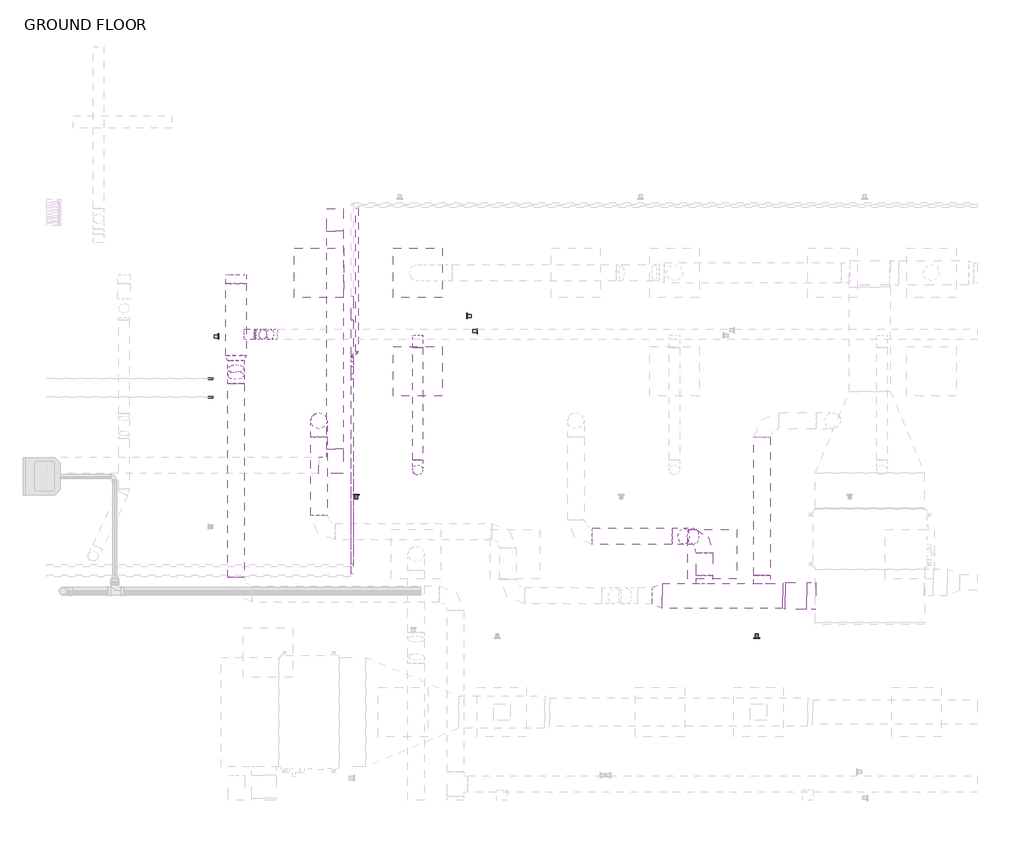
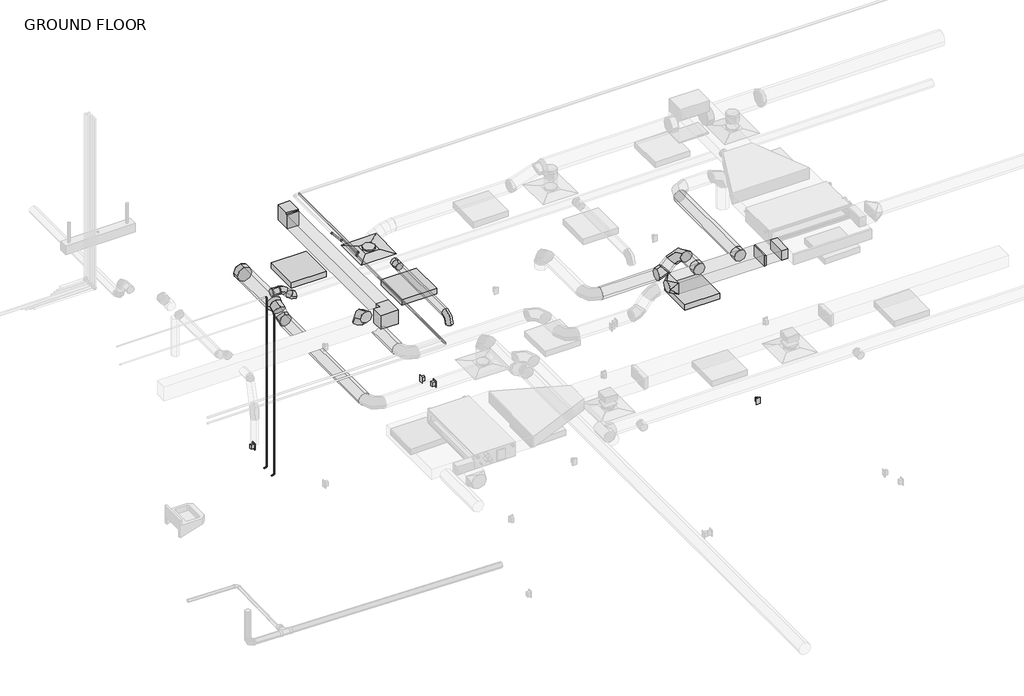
# One storey, part 15 of 21: 19 duct fittings, 16 duct segments, 11 pipe segments, 8 pipe fittings, 3 light fixtures, 3 proxies, 2 switching devices, 1 air terminal.
"""IFC4 building model written with IfcOpenShell, lengths in millimetres."""

from ifc_helpers import new_model, si_unit, point, frame, frame_2d, origin, place, context, project, spatial, polyline, circle_curve, trimmed, segment, composite_curve, outline, extrude, transform, mapped, element, save
from components import air_terminal_e9020785, duplex_receptacle_countertop_10251bba, rectangular_elbow_mitered_transition_standard_eb9bf791, rectangular_elbow_mitered_standard_f09b78ec, rectangular_takeoff_standard_68f80ab3, rectangular_transition_angle_45_degree_0521c937, rectangular_to_round_transition_angle_45_degree_f8b25ec9, round_elbow_1_d_a253342a, round_elbow_1_d_c80420c1, round_elbow_1_d_ab3aa7ba, round_elbow_1_d_20610a6e, round_elbow_1_d_42c0595d, round_takeoff_standard_d3b0d0f9, round_takeoff_standard_17dc06e3, round_takeoff_standard_86724b47, round_takeoff_standard_17f2ae85, round_transition_angle_45_degree_605ec02d, troffer_corner_insert_2x2_3lamp_e67c7f8f, elbow_generic_standard_be2ddd46, elbow_generic_standard_1964ee4a, elbow_generic_standard_a088f956

model = new_model("IFC4")

# Units and contexts
model_context = context("Model", 3, world=origin())
ifc_project = project(units=[si_unit("LENGTHUNIT", "METRE", prefix="MILLI")], contexts=[model_context])

# Site, building, storey
site = spatial("IfcSite", under=ifc_project)
building = spatial("IfcBuilding", under=site)
storey = spatial("IfcBuildingStorey", under=building, Name="GROUND FLOOR", Elevation=30480.0)

# Air terminal
placement = place(None, origin())
air_terminal_shape = air_terminal_e9020785(model_context)
element("IfcAirTerminal", 1, ObjectType="Supply Diffuser - Rectangular Face Round Neck - Hosted : 24\"x24\" Face 8\" Neck - Hosted", at=placement, inside=storey, context=model_context, shape_type="MappedRepresentation", body=[
    mapped(air_terminal_shape, transform((-5009.1954607, 6811.3695005, 33223.2), x_axis=(0.0, -1.0, 0.0), y_axis=(-1.0, 0.0, 0.0), z_axis=(0.0, 0.0, -1.0))),
])

# Proxies
duplex_receptacle_countertop_shape = duplex_receptacle_countertop_10251bba(model_context)
element("IfcBuildingElementProxy", 2, Name="Duplex Receptacle : Standard", ObjectType="Duplex Receptacle : Standard", at=placement, inside=storey, context=model_context, shape_type="MappedRepresentation", body=[
    mapped(duplex_receptacle_countertop_shape, transform((-4399.5954607, 6279.0494659, 30937.2), x_axis=(0.0, -1.0, 0.0), y_axis=(0.0, 0.0, 1.0), z_axis=(-1.0, 0.0, 0.0))),
])
element("IfcBuildingElementProxy", 3, Name="Duplex Receptacle : Standard", ObjectType="Duplex Receptacle : Standard", at=placement, inside=storey, context=model_context, shape_type="MappedRepresentation", body=[
    mapped(duplex_receptacle_countertop_shape, transform((-7469.8204607, 6025.6008767, 30937.2), x_axis=(0.0, 1.0, 0.0), y_axis=(0.0, 0.0, 1.0), z_axis=(1.0, 0.0, 0.0))),
])
element("IfcBuildingElementProxy", 4, Name="Duplex Receptacle : Standard", ObjectType="Duplex Receptacle : Standard", at=placement, inside=storey, context=model_context, shape_type="MappedRepresentation", body=[
    mapped(duplex_receptacle_countertop_shape, transform((-4275.7704607, 6088.963024, 30937.2), x_axis=(0.0, 1.0, 0.0), y_axis=(0.0, 0.0, 1.0), z_axis=(1.0, 0.0, 0.0))),
])

# Duct fittings
rectangular_elbow_mitered_transition_standard_shape = rectangular_elbow_mitered_transition_standard_eb9bf791(model_context)
element("IfcDuctFitting", 5, ObjectType="Rectangular Elbow - Mitered - Transition : Standard", at=placement, inside=storey, context=model_context, shape_type="MappedRepresentation", body=[
    mapped(rectangular_elbow_mitered_transition_standard_shape, transform((-6029.8204015, 4430.1195005, 33807.4), x_axis=(1.0, 0.0, 0.0), y_axis=(0.0, 1.0, 0.0), z_axis=(0.0, 0.0, 1.0))),
])
rectangular_elbow_mitered_standard_shape = rectangular_elbow_mitered_standard_f09b78ec(model_context)
element("IfcDuctFitting", 6, ObjectType="Rectangular Elbow - Mitered : Standard", at=placement, inside=storey, context=model_context, shape_type="MappedRepresentation", body=[
    mapped(rectangular_elbow_mitered_standard_shape, transform((-6029.8204015, 7478.1195005, 33807.4), x_axis=(0.0, 1.0, 0.0), y_axis=(0.0, 0.0, 1.0), z_axis=(1.0, 0.0, 0.0))),
])
rectangular_takeoff_standard_shape = rectangular_takeoff_standard_68f80ab3(model_context)
element("IfcDuctFitting", 7, ObjectType="Rectangular Takeoff : Standard", at=placement, inside=storey, context=model_context, shape_type="MappedRepresentation", body=[
    mapped(rectangular_takeoff_standard_shape, transform((-101.8689282, 2818.301218, 33947.89375), x_axis=(-1.0, 0.0, 0.0), y_axis=(0.0, 1.0, 0.0), z_axis=(0.0, 0.0, -1.0))),
])
rectangular_transition_angle_45_degree_shape = rectangular_transition_angle_45_degree_0521c937(model_context)
element("IfcDuctFitting", 8, ObjectType="Rectangular Transition - Angle : 45 Degree", at=placement, inside=storey, context=model_context, shape_type="MappedRepresentation", body=[
    mapped(rectangular_transition_angle_45_degree_shape, transform((-471.6175144, 2818.301218, 33947.89375), x_axis=(-1.0, 0.0, 0.0), y_axis=(0.0, -1.0, 0.0), z_axis=(0.0, 0.0, 1.0))),
])
rectangular_to_round_transition_angle_45_degree_shape = rectangular_to_round_transition_angle_45_degree_f8b25ec9(model_context)
element("IfcDuctFitting", 9, ObjectType="Rectangular to Round Transition - Angle : 45 Degree", at=placement, inside=storey, context=model_context, shape_type="MappedRepresentation", body=[
    mapped(rectangular_to_round_transition_angle_45_degree_shape, transform((-1989.2675144, 2818.301218, 33947.89375), x_axis=(-1.0, 0.0, 0.0), y_axis=(0.0, -1.0, 0.0), z_axis=(0.0, 0.0, 1.0))),
])
round_elbow_1_d_shape = round_elbow_1_d_a253342a(model_context)
element("IfcDuctFitting", 10, ObjectType="Round Elbow : 1 D", at=placement, inside=storey, context=model_context, shape_type="MappedRepresentation", body=[
    mapped(round_elbow_1_d_shape, transform((-6228.3954607, 4982.5695005, 33629.6), x_axis=(0.0, 0.0, 1.0), y_axis=(0.0, -1.0, 0.0), z_axis=(1.0, 0.0, 0.0))),
])
element("IfcDuctFitting", 11, ObjectType="Round Elbow : 1 D", at=placement, inside=storey, context=model_context, shape_type="MappedRepresentation", body=[
    mapped(round_elbow_1_d_shape, transform((-1465.5538665, 3554.901218, 33947.89375), x_axis=(0.7071067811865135, 0.0, 0.7071067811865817), y_axis=(0.0, -1.0000000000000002, 0.0), z_axis=(0.7071067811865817, 0.0, -0.7071067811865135))),
])
round_elbow_1_d_2_shape = round_elbow_1_d_c80420c1(model_context)
element("IfcDuctFitting", 12, ObjectType="Round Elbow : 1 D", at=placement, inside=storey, context=model_context, shape_type="MappedRepresentation", body=[
    mapped(round_elbow_1_d_2_shape, transform((-5009.1954607, 4372.9695005, 33464.5), x_axis=(0.0, -1.0, 0.0), y_axis=(0.0, 0.0, -1.0), z_axis=(1.0, 0.0, 0.0))),
])
round_elbow_1_d_3_shape = round_elbow_1_d_ab3aa7ba(model_context)
element("IfcDuctFitting", 13, ObjectType="Round Elbow : 1 D", at=placement, inside=storey, context=model_context, shape_type="MappedRepresentation", body=[
    mapped(round_elbow_1_d_3_shape, transform((-1783.8476165, 3554.901218, 33629.6), x_axis=(-0.7071067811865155, 0.0, -0.7071067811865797), y_axis=(-0.7071067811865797, 0.0, 0.7071067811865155), z_axis=(0.0, 1.0, 0.0))),
])
round_elbow_1_d_4_shape = round_elbow_1_d_20610a6e(model_context)
element("IfcDuctFitting", 14, ObjectType="Round Elbow : 1 D", at=placement, inside=storey, context=model_context, shape_type="MappedRepresentation", body=[
    mapped(round_elbow_1_d_4_shape, transform((-7253.9204607, 5672.1243299, 33629.6), x_axis=(0.0, -1.0, 0.0), y_axis=(0.0, 0.0, -1.0), z_axis=(1.0, 0.0, 0.0))),
])
element("IfcDuctFitting", 15, ObjectType="Round Elbow : 1 D", at=placement, inside=storey, context=model_context, shape_type="MappedRepresentation", body=[
    mapped(round_elbow_1_d_4_shape, transform((-7253.9204607, 5496.1479679, 33528.0), x_axis=(0.0, -0.8660254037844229, -0.5000000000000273), y_axis=(0.0, -0.5000000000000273, 0.8660254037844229), z_axis=(-1.0, 0.0, 0.0))),
])
round_elbow_1_d_5_shape = round_elbow_1_d_42c0595d(model_context)
element("IfcDuctFitting", 16, ObjectType="Round Elbow : 1 D", at=placement, inside=storey, context=model_context, shape_type="MappedRepresentation", body=[
    mapped(round_elbow_1_d_5_shape, transform((-6958.932468, 6049.3695005, 33629.6), x_axis=(1.0, 0.0, 0.0), y_axis=(0.0, 0.0, -1.0), z_axis=(0.0, 1.0, 0.0))),
])
element("IfcDuctFitting", 17, ObjectType="Round Elbow : 1 D", at=placement, inside=storey, context=model_context, shape_type="MappedRepresentation", body=[
    mapped(round_elbow_1_d_5_shape, transform((-6793.8326712, 6049.3695005, 33464.5), x_axis=(0.707106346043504, 0.0, -0.7071072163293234), y_axis=(0.7071072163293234, 0.0, 0.707106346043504), z_axis=(0.0, -1.0, 0.0))),
])
round_takeoff_standard_shape = round_takeoff_standard_d3b0d0f9(model_context)
element("IfcDuctFitting", 18, ObjectType="Round Takeoff : Standard", at=placement, inside=storey, context=model_context, shape_type="MappedRepresentation", body=[
    mapped(round_takeoff_standard_shape, transform((-754.6339071, 2970.701218, 33947.89375), x_axis=(0.0, 1.0, 0.0), y_axis=(1.0, 0.0, 0.0), z_axis=(0.0, 0.0, -1.0))),
])
element("IfcDuctFitting", 19, ObjectType="Round Takeoff : Standard", at=placement, inside=storey, context=model_context, shape_type="MappedRepresentation", body=[
    mapped(round_takeoff_standard_shape, transform((-1465.5538665, 2970.701218, 33947.89375), x_axis=(0.0, 1.0, 0.0), y_axis=(1.0, 0.0, 0.0), z_axis=(0.0, 0.0, -1.0))),
])
round_takeoff_standard_2_shape = round_takeoff_standard_17dc06e3(model_context)
element("IfcDuctFitting", 20, ObjectType="Round Takeoff : Standard", at=placement, inside=storey, context=model_context, shape_type="MappedRepresentation", body=[
    mapped(round_takeoff_standard_2_shape, transform((-5009.1954607, 5985.8695005, 33464.5), x_axis=(0.0, -1.0, 0.0), y_axis=(-1.0, 0.0, 0.0), z_axis=(0.0, 0.0, -1.0))),
])
round_takeoff_standard_3_shape = round_takeoff_standard_86724b47(model_context)
element("IfcDuctFitting", 21, ObjectType="Round Takeoff : Standard", at=placement, inside=storey, context=model_context, shape_type="MappedRepresentation", body=[
    mapped(round_takeoff_standard_3_shape, transform((-7253.9204607, 6781.4293332, 33629.6), x_axis=(0.0, -1.0, 0.0), y_axis=(-1.0, 0.0, 0.0), z_axis=(0.0, 0.0, -1.0))),
])
round_takeoff_standard_4_shape = round_takeoff_standard_17f2ae85(model_context)
element("IfcDuctFitting", 22, ObjectType="Round Takeoff : Standard", at=placement, inside=storey, context=model_context, shape_type="MappedRepresentation", body=[
    mapped(round_takeoff_standard_4_shape, transform((-7126.9204607, 6049.3695005, 33629.6), x_axis=(1.0, 0.0, 0.0), y_axis=(0.0, 1.0, 0.0), z_axis=(0.0, 0.0, 1.0))),
])
round_transition_angle_45_degree_shape = round_transition_angle_45_degree_605ec02d(model_context)
element("IfcDuctFitting", 23, ObjectType="Round Transition - Angle : 45 Degree", at=placement, inside=storey, context=model_context, shape_type="MappedRepresentation", body=[
    mapped(round_transition_angle_45_degree_shape, transform((-7253.9204607, 5726.5716058, 33629.6), x_axis=(0.0, 1.0, 0.0), y_axis=(-1.0, 0.0, 0.0), z_axis=(0.0, 0.0, 1.0))),
])

# Duct segments
element("IfcDuctSegment", 24, ObjectType="Mitered Elbows / Taps", at=placement, inside=storey, context=model_context, shape_type="SweptSolid", body=[
    extrude(outline(polyline([(-1989.2675144, 2665.901218), (-1989.2675144, 2970.701218), (-502.2780266, 2970.701218), (-502.2780266, 2665.901218), (-1989.2675144, 2665.901218)])), frame((0.0, 0.0, 33846.29375), z_axis=(0.0, 0.0, 1.0), x_axis=(1.0, 0.0, 0.0)), (0.0, 0.0, 1.0), 203.2),
])
element("IfcDuctSegment", 25, ObjectType="Mitered Elbows / Taps", at=placement, inside=storey, context=model_context, shape_type="SweptSolid", body=[
    extrude(outline(polyline([(-471.6175144, 2653.201218), (-471.6175144, 2983.401218), (-203.4689282, 2983.401218), (-203.4689282, 2653.201218), (-471.6175144, 2653.201218)])), frame((0.0, 0.0, 33858.99375), z_axis=(0.0, 0.0, 1.0), x_axis=(1.0, 0.0, 0.0)), (0.0, 0.0, 1.0), 177.8),
])
element("IfcDuctSegment", 26, ObjectType="Mitered Elbows / Tees", at=placement, inside=storey, context=model_context, shape_type="SweptSolid", body=[
    extrude(outline(polyline([(-6131.4204015, 7325.7195005), (-5928.2204015, 7325.7195005), (-5928.2204015, 4633.3195005), (-6131.4204015, 4633.3195005), (-6131.4204015, 7325.7195005)])), frame((0.0, 0.0, 33680.4), z_axis=(0.0, 0.0, 1.0), x_axis=(1.0, 0.0, 0.0)), (0.0, 0.0, 1.0), 254.0),
])
element("IfcDuctSegment", 27, ObjectType="Taps / Short Radius", at=placement, inside=storey, context=model_context, shape_type="SweptSolid", body=[
    extrude(outline(composite_curve([segment(trimmed(circle_curve(frame_2d((33629.6, -6228.3954607)), 101.6), [point((33629.6, -6329.9954607))], [point((33528.0, -6228.3954607))], False, "CARTESIAN"), True, "CONTINUOUS"), segment(trimmed(circle_curve(frame_2d((33629.6, -6228.3954607)), 101.6), [point((33528.0, -6228.3954607))], [point((33629.6, -6126.7954607))], False, "CARTESIAN"), True, "CONTINUOUS"), segment(trimmed(circle_curve(frame_2d((33629.6, -6228.3954607)), 101.6), [point((33629.6, -6126.7954607))], [point((33731.2, -6228.3954607))], False, "CARTESIAN"), True, "CONTINUOUS"), segment(trimmed(circle_curve(frame_2d((33629.6, -6228.3954607)), 101.6), [point((33731.2, -6228.3954607))], [point((33629.6, -6329.9954607))], False, "CARTESIAN"), True, "CONTINUOUS")], self_intersect=False)), frame((0.0, 3814.1695005, 0.0), z_axis=(0.0, 1.0, 0.0), x_axis=(0.0, 0.0, 1.0)), (0.0, 0.0, 1.0), 965.2),
])
element("IfcDuctSegment", 28, ObjectType="Taps / Short Radius", at=placement, inside=storey, context=model_context, shape_type="SweptSolid", body=[
    extrude(outline(composite_curve([segment(trimmed(circle_curve(frame_2d((-6228.3954607, 4982.5695005)), 101.6), [point((-6228.3954607, 5084.1695005))], [point((-6126.7954607, 4982.5695005))], False, "CARTESIAN"), True, "CONTINUOUS"), segment(trimmed(circle_curve(frame_2d((-6228.3954607, 4982.5695005)), 101.6), [point((-6126.7954607, 4982.5695005))], [point((-6228.3954607, 4880.9695005))], False, "CARTESIAN"), True, "CONTINUOUS"), segment(trimmed(circle_curve(frame_2d((-6228.3954607, 4982.5695005)), 101.6), [point((-6228.3954607, 4880.9695005))], [point((-6329.9954607, 4982.5695005))], False, "CARTESIAN"), True, "CONTINUOUS"), segment(trimmed(circle_curve(frame_2d((-6228.3954607, 4982.5695005)), 101.6), [point((-6329.9954607, 4982.5695005))], [point((-6228.3954607, 5084.1695005))], False, "CARTESIAN"), True, "CONTINUOUS")], self_intersect=False)), frame((0.0, 0.0, 33324.8), z_axis=(0.0, 0.0, 1.0), x_axis=(1.0, 0.0, 0.0)), (0.0, 0.0, 1.0), 101.6),
])
element("IfcDuctSegment", 29, ObjectType="Taps / Short Radius", at=placement, inside=storey, context=model_context, shape_type="SweptSolid", body=[
    extrude(outline(composite_curve([segment(trimmed(circle_curve(frame_2d((33947.89375, -754.6339071)), 101.6), [point((33947.89375, -856.2339071))], [point((33846.29375, -754.6339071))], False, "CARTESIAN"), True, "CONTINUOUS"), segment(trimmed(circle_curve(frame_2d((33947.89375, -754.6339071)), 101.6), [point((33846.29375, -754.6339071))], [point((33947.89375, -653.0339071))], False, "CARTESIAN"), True, "CONTINUOUS"), segment(trimmed(circle_curve(frame_2d((33947.89375, -754.6339071)), 101.6), [point((33947.89375, -653.0339071))], [point((34049.49375, -754.6339071))], False, "CARTESIAN"), True, "CONTINUOUS"), segment(trimmed(circle_curve(frame_2d((33947.89375, -754.6339071)), 101.6), [point((34049.49375, -754.6339071))], [point((33947.89375, -856.2339071))], False, "CARTESIAN"), True, "CONTINUOUS")], self_intersect=False)), frame((0.0, 3072.301218, 0.0), z_axis=(0.0, 1.0, 0.0), x_axis=(0.0, 0.0, 1.0)), (0.0, 0.0, 1.0), 1707.0682826),
])
element("IfcDuctSegment", 30, ObjectType="Taps / Short Radius", at=placement, inside=storey, context=model_context, shape_type="SweptSolid", body=[
    extrude(outline(composite_curve([segment(trimmed(circle_curve(frame_2d((0.0, 63.5)), 63.5), [point((-63.5, 63.5))], [point((0.0, 127.0))], False, "CARTESIAN"), True, "CONTINUOUS"), segment(trimmed(circle_curve(frame_2d((0.0, 63.5)), 63.5), [point((0.0, 127.0))], [point((63.5, 63.5))], False, "CARTESIAN"), True, "CONTINUOUS"), segment(trimmed(circle_curve(frame_2d((0.0, 63.5)), 63.5), [point((63.5, 63.5))], [point((0.0, 0.0))], False, "CARTESIAN"), True, "CONTINUOUS"), segment(trimmed(circle_curve(frame_2d((0.0, 63.5)), 63.5), [point((0.0, 0.0))], [point((-63.5, 63.5))], False, "CARTESIAN"), True, "CONTINUOUS")], self_intersect=False)), frame((-5009.1954607, 4309.4695005, 33324.8), z_axis=(0.0, -1.023181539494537e-12, 1.0), x_axis=(1.0, 0.0, 0.0)), (0.0, 0.0, 1.0), 12.7),
])
element("IfcDuctSegment", 31, ObjectType="Taps / Short Radius", at=placement, inside=storey, context=model_context, shape_type="SweptSolid", body=[
    extrude(outline(composite_curve([segment(trimmed(circle_curve(frame_2d((33464.5, -5009.1954607)), 63.5), [point((33464.5, -5072.6954607))], [point((33401.0, -5009.1954607))], False, "CARTESIAN"), True, "CONTINUOUS"), segment(trimmed(circle_curve(frame_2d((33464.5, -5009.1954607)), 63.5), [point((33401.0, -5009.1954607))], [point((33464.5, -4945.6954607))], False, "CARTESIAN"), True, "CONTINUOUS"), segment(trimmed(circle_curve(frame_2d((33464.5, -5009.1954607)), 63.5), [point((33464.5, -4945.6954607))], [point((33528.0, -5009.1954607))], False, "CARTESIAN"), True, "CONTINUOUS"), segment(trimmed(circle_curve(frame_2d((33464.5, -5009.1954607)), 63.5), [point((33528.0, -5009.1954607))], [point((33464.5, -5072.6954607))], False, "CARTESIAN"), True, "CONTINUOUS")], self_intersect=False)), frame((0.0, 4499.9695005, 0.0), z_axis=(0.0, 1.0, 0.0), x_axis=(0.0, 0.0, 1.0)), (0.0, 0.0, 1.0), 1384.3),
])
element("IfcDuctSegment", 32, ObjectType="Taps / Short Radius", at=placement, inside=storey, context=model_context, shape_type="SweptSolid", body=[
    extrude(outline(composite_curve([segment(trimmed(circle_curve(frame_2d((33528.0, -7253.9204607)), 101.6), [point((33528.0, -7355.5204607))], [point((33426.4, -7253.9204607))], False, "CARTESIAN"), True, "CONTINUOUS"), segment(trimmed(circle_curve(frame_2d((33528.0, -7253.9204607)), 101.6), [point((33426.4, -7253.9204607))], [point((33528.0, -7152.3204607))], False, "CARTESIAN"), True, "CONTINUOUS"), segment(trimmed(circle_curve(frame_2d((33528.0, -7253.9204607)), 101.6), [point((33528.0, -7152.3204607))], [point((33629.6, -7253.9204607))], False, "CARTESIAN"), True, "CONTINUOUS"), segment(trimmed(circle_curve(frame_2d((33528.0, -7253.9204607)), 101.6), [point((33629.6, -7253.9204607))], [point((33528.0, -7355.5204607))], False, "CARTESIAN"), True, "CONTINUOUS")], self_intersect=False)), frame((0.0, 3045.096647, 0.0), z_axis=(0.0, 1.0, 0.0), x_axis=(0.0, 0.0, 1.0)), (0.0, 0.0, 1.0), 2396.604045),
])
element("IfcDuctSegment", 33, ObjectType="Taps / Short Radius", at=placement, inside=storey, context=model_context, shape_type="SweptSolid", body=[
    extrude(outline(composite_curve([segment(trimmed(circle_curve(frame_2d((33629.6, -7253.9204607)), 127.0), [point((33629.6, -7380.9204607))], [point((33502.6, -7253.9204607))], False, "CARTESIAN"), True, "CONTINUOUS"), segment(trimmed(circle_curve(frame_2d((33629.6, -7253.9204607)), 127.0), [point((33502.6, -7253.9204607))], [point((33629.6, -7126.9204607))], False, "CARTESIAN"), True, "CONTINUOUS"), segment(trimmed(circle_curve(frame_2d((33629.6, -7253.9204607)), 127.0), [point((33629.6, -7126.9204607))], [point((33756.6, -7253.9204607))], False, "CARTESIAN"), True, "CONTINUOUS"), segment(trimmed(circle_curve(frame_2d((33629.6, -7253.9204607)), 127.0), [point((33756.6, -7253.9204607))], [point((33629.6, -7380.9204607))], False, "CARTESIAN"), True, "CONTINUOUS")], self_intersect=False)), frame((0.0, 5787.8926303, 0.0), z_axis=(0.0, 1.0, 0.0), x_axis=(0.0, 0.0, 1.0)), (0.0, 0.0, 1.0), 891.9367029),
])
element("IfcDuctSegment", 34, ObjectType="Taps / Short Radius", at=placement, inside=storey, context=model_context, shape_type="SweptSolid", body=[
    extrude(outline(composite_curve([segment(trimmed(circle_curve(frame_2d((0.0, -101.6000001)), 101.6), [point((-101.6, -101.6000001))], [point((0.0, 0.0))], False, "CARTESIAN"), True, "CONTINUOUS"), segment(trimmed(circle_curve(frame_2d((0.0, -101.6000001)), 101.6), [point((0.0, 0.0))], [point((101.6, -101.6000001))], False, "CARTESIAN"), True, "CONTINUOUS"), segment(trimmed(circle_curve(frame_2d((0.0, -101.6000001)), 101.6), [point((101.6, -101.6000001))], [point((0.0, -203.2))], False, "CARTESIAN"), True, "CONTINUOUS"), segment(trimmed(circle_curve(frame_2d((0.0, -101.6000001)), 101.6), [point((0.0, -203.2))], [point((-101.6, -101.6000001))], False, "CARTESIAN"), True, "CONTINUOUS")], self_intersect=False)), frame((-7253.9204607, 5594.100692, 33467.2354569), z_axis=(0.0, 0.8660254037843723, 0.5000000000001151), x_axis=(1.0, 0.0, 0.0)), (0.0, 0.0, 1.0), 94.3054482),
])
element("IfcDuctSegment", 35, ObjectType="Taps / Short Radius", at=placement, inside=storey, context=model_context, shape_type="SweptSolid", body=[
    extrude(outline(composite_curve([segment(trimmed(circle_curve(frame_2d((6049.3695005, 33629.6)), 63.5), [point((5985.8695005, 33629.6))], [point((6049.3695005, 33693.1))], False, "CARTESIAN"), True, "CONTINUOUS"), segment(trimmed(circle_curve(frame_2d((6049.3695005, 33629.6)), 63.5), [point((6049.3695005, 33693.1))], [point((6112.8695005, 33629.6))], False, "CARTESIAN"), True, "CONTINUOUS"), segment(trimmed(circle_curve(frame_2d((6049.3695005, 33629.6)), 63.5), [point((6112.8695005, 33629.6))], [point((6049.3695005, 33566.1))], False, "CARTESIAN"), True, "CONTINUOUS"), segment(trimmed(circle_curve(frame_2d((6049.3695005, 33629.6)), 63.5), [point((6049.3695005, 33566.1))], [point((5985.8695005, 33629.6))], False, "CARTESIAN"), True, "CONTINUOUS")], self_intersect=False)), frame((-7025.3204607, 0.0, 0.0), z_axis=(1.0, 0.0, 0.0), x_axis=(0.0, 1.0, 0.0)), (0.0, 0.0, 1.0), 13.7828245),
])
element("IfcDuctSegment", 36, ObjectType="Taps / Short Radius", at=placement, inside=storey, context=model_context, shape_type="SweptSolid", body=[
    extrude(outline(composite_curve([segment(trimmed(circle_curve(frame_2d((0.0, -63.5)), 63.5), [point((0.0, -127.0))], [point((-63.5, -63.5))], False, "CARTESIAN"), True, "CONTINUOUS"), segment(trimmed(circle_curve(frame_2d((0.0, -63.5)), 63.5), [point((-63.5, -63.5))], [point((0.0, 0.0))], False, "CARTESIAN"), True, "CONTINUOUS"), segment(trimmed(circle_curve(frame_2d((0.0, -63.5)), 63.5), [point((0.0, 0.0))], [point((63.4999999, -63.5))], False, "CARTESIAN"), True, "CONTINUOUS"), segment(trimmed(circle_curve(frame_2d((0.0, -63.5)), 63.5), [point((63.4999999, -63.5))], [point((0.0, -127.0))], False, "CARTESIAN"), True, "CONTINUOUS")], self_intersect=False)), frame((-6831.0301195, 6112.8695005, 33501.6974941), z_axis=(-0.7071063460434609, 0.0, 0.7071072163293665), x_axis=(0.7071072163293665, 0.0, 0.7071063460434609)), (0.0, 0.0, 1.0), 128.2761791),
])
element("IfcDuctSegment", 37, ObjectType="Taps / Short Radius", at=placement, inside=storey, context=model_context, shape_type="SweptSolid", body=[
    extrude(outline(composite_curve([segment(trimmed(circle_curve(frame_2d((33947.89375, -1465.5538665)), 101.6), [point((33947.89375, -1567.1538665))], [point((33846.29375, -1465.5538665))], False, "CARTESIAN"), True, "CONTINUOUS"), segment(trimmed(circle_curve(frame_2d((33947.89375, -1465.5538665)), 101.6), [point((33846.29375, -1465.5538665))], [point((33947.89375, -1363.9538665))], False, "CARTESIAN"), True, "CONTINUOUS"), segment(trimmed(circle_curve(frame_2d((33947.89375, -1465.5538665)), 101.6), [point((33947.89375, -1363.9538665))], [point((34049.49375, -1465.5538665))], False, "CARTESIAN"), True, "CONTINUOUS"), segment(trimmed(circle_curve(frame_2d((33947.89375, -1465.5538665)), 101.6), [point((34049.49375, -1465.5538665))], [point((33947.89375, -1567.1538665))], False, "CARTESIAN"), True, "CONTINUOUS")], self_intersect=False)), frame((0.0, 3072.301218, 0.0), z_axis=(0.0, 1.0, 0.0), x_axis=(0.0, 0.0, 1.0)), (0.0, 0.0, 1.0), 279.4),
])
element("IfcDuctSegment", 38, ObjectType="Taps / Short Radius", at=placement, inside=storey, context=model_context, shape_type="SweptSolid", body=[
    extrude(outline(composite_curve([segment(trimmed(circle_curve(frame_2d((0.0, -101.6)), 101.6), [point((0.0, 0.0))], [point((101.6, -101.6))], False, "CARTESIAN"), True, "CONTINUOUS"), segment(trimmed(circle_curve(frame_2d((0.0, -101.6)), 101.6), [point((101.6, -101.6))], [point((0.0, -203.2))], False, "CARTESIAN"), True, "CONTINUOUS"), segment(trimmed(circle_curve(frame_2d((0.0, -101.6)), 101.6), [point((0.0, -203.2))], [point((-101.6, -101.6))], False, "CARTESIAN"), True, "CONTINUOUS"), segment(trimmed(circle_curve(frame_2d((0.0, -101.6)), 101.6), [point((-101.6, -101.6))], [point((0.0, 0.0))], False, "CARTESIAN"), True, "CONTINUOUS")], self_intersect=False)), frame((-1724.3317144, 3656.501218, 33689.1159021), z_axis=(0.7071067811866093, 0.0, 0.7071067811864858), x_axis=(0.7071067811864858, 0.0, -0.7071067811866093)), (0.0, 0.0, 1.0), 162.7671422),
])
element("IfcDuctSegment", 39, ObjectType="Taps / Short Radius", at=placement, inside=storey, context=model_context, shape_type="SweptSolid", body=[
    extrude(outline(composite_curve([segment(trimmed(circle_curve(frame_2d((3554.901218, 33629.6)), 101.6), [point((3453.301218, 33629.6))], [point((3554.901218, 33731.2))], False, "CARTESIAN"), True, "CONTINUOUS"), segment(trimmed(circle_curve(frame_2d((3554.901218, 33629.6)), 101.6), [point((3554.901218, 33731.2))], [point((3656.501218, 33629.6))], False, "CARTESIAN"), True, "CONTINUOUS"), segment(trimmed(circle_curve(frame_2d((3554.901218, 33629.6)), 101.6), [point((3656.501218, 33629.6))], [point((3554.901218, 33528.0))], False, "CARTESIAN"), True, "CONTINUOUS"), segment(trimmed(circle_curve(frame_2d((3554.901218, 33629.6)), 101.6), [point((3554.901218, 33528.0))], [point((3453.301218, 33629.6))], False, "CARTESIAN"), True, "CONTINUOUS")], self_intersect=False)), frame((-2853.3704607, 0.0, 0.0), z_axis=(1.0, 0.0, 0.0), x_axis=(0.0, 1.0, 0.0)), (0.0, 0.0, 1.0), 985.3546483),
])

# Light fixtures
troffer_corner_insert_2x2_3lamp_shape = troffer_corner_insert_2x2_3lamp_e67c7f8f(model_context)
element("IfcLightFixture", 40, ObjectType="Troffer Corner Insert : 2x2 3Lamp", at=placement, inside=storey, context=model_context, shape_type="MappedRepresentation", body=[
    mapped(troffer_corner_insert_2x2_3lamp_shape, transform((-6228.3954607, 6811.3695005, 30784.8), x_axis=(1.0, 0.0, 0.0), y_axis=(0.0, 1.0, 0.0), z_axis=(0.0, 0.0, 1.0))),
])
element("IfcLightFixture", 41, ObjectType="Troffer Corner Insert : 2x2 3Lamp", at=placement, inside=storey, context=model_context, shape_type="MappedRepresentation", body=[
    mapped(troffer_corner_insert_2x2_3lamp_shape, transform((-5009.1954607, 5592.1695005, 30784.8), x_axis=(1.0, 0.0, 0.0), y_axis=(0.0, 1.0, 0.0), z_axis=(0.0, 0.0, 1.0))),
])
element("IfcLightFixture", 42, ObjectType="Troffer Corner Insert : 2x2 3Lamp", at=placement, inside=storey, context=model_context, shape_type="MappedRepresentation", body=[
    mapped(troffer_corner_insert_2x2_3lamp_shape, transform((-1370.6454607, 3334.7445005, 30784.8), x_axis=(1.0, 0.0, 0.0), y_axis=(0.0, 1.0, 0.0), z_axis=(0.0, 0.0, 1.0))),
])

# Pipe fittings
elbow_generic_standard_shape = elbow_generic_standard_be2ddd46(model_context)
element("IfcPipeFitting", 43, ObjectType="Elbow - Generic : Standard", at=placement, inside=storey, context=model_context, shape_type="MappedRepresentation", body=[
    mapped(elbow_generic_standard_shape, transform((-5818.8204607, 6228.3718518, 34023.3), x_axis=(0.0, 1.0, 0.0), y_axis=(0.0, 0.0, -1.0), z_axis=(-1.0, 0.0, 0.0))),
])
element("IfcPipeFitting", 44, ObjectType="Elbow - Generic : Standard", at=placement, inside=storey, context=model_context, shape_type="MappedRepresentation", body=[
    mapped(elbow_generic_standard_shape, transform((-5818.8204607, 6523.7948224, 33978.2831664), x_axis=(0.0, -1.0, 0.0), y_axis=(0.0, 0.0, 1.0), z_axis=(-1.0, 0.0, 0.0))),
])
elbow_generic_standard_2_shape = elbow_generic_standard_1964ee4a(model_context)
element("IfcPipeFitting", 45, ObjectType="Elbow - Generic : Standard", at=placement, inside=storey, context=model_context, shape_type="MappedRepresentation", body=[
    mapped(elbow_generic_standard_2_shape, transform((-5818.8204607, 5772.7504162, 34023.2999997), x_axis=(-0.7071067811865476, -0.7071067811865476, 0.0), y_axis=(0.7071067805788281, -0.7071067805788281, -4.1459500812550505e-05), z_axis=(2.931629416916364e-05, -2.931629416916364e-05, 0.9999999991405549))),
])
element("IfcPipeFitting", 46, ObjectType="Elbow - Generic : Standard", at=placement, inside=storey, context=model_context, shape_type="MappedRepresentation", body=[
    mapped(elbow_generic_standard_2_shape, transform((-5760.4443281, 5831.1265488, 34023.2999997), x_axis=(0.7071067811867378, 0.7071067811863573, 0.0), y_axis=(-0.7071067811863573, 0.7071067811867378, 0.0), z_axis=(0.0, 0.0, 1.0))),
])
elbow_generic_standard_3_shape = elbow_generic_standard_a088f956(model_context)
element("IfcPipeFitting", 47, ObjectType="Elbow - Generic : Standard", at=placement, inside=storey, context=model_context, shape_type="MappedRepresentation", body=[
    mapped(elbow_generic_standard_3_shape, transform((-7542.8454607, 5503.2695005, 30886.4), x_axis=(1.0, 0.0, 0.0), y_axis=(0.0, 0.0, 1.0), z_axis=(0.0, -1.0, 0.0))),
])
element("IfcPipeFitting", 48, ObjectType="Elbow - Generic : Standard", at=placement, inside=storey, context=model_context, shape_type="MappedRepresentation", body=[
    mapped(elbow_generic_standard_3_shape, transform((-7542.8454607, 5503.2695005, 34023.3), x_axis=(0.0, 0.0, 1.0), y_axis=(-1.0, 0.0, 0.0), z_axis=(0.0, -1.0, 0.0))),
])
element("IfcPipeFitting", 49, ObjectType="Elbow - Generic : Standard", at=placement, inside=storey, context=model_context, shape_type="MappedRepresentation", body=[
    mapped(elbow_generic_standard_3_shape, transform((-7542.8454607, 5274.6695005, 30886.4), x_axis=(1.0, 0.0, 0.0), y_axis=(0.0, 0.0, 1.0), z_axis=(0.0, -1.0, 0.0))),
])
element("IfcPipeFitting", 50, ObjectType="Elbow - Generic : Standard", at=placement, inside=storey, context=model_context, shape_type="MappedRepresentation", body=[
    mapped(elbow_generic_standard_3_shape, transform((-7542.8454607, 5274.6695005, 33855.358114), x_axis=(0.0, 0.0, 1.0), y_axis=(-1.0, 0.0, 0.0), z_axis=(0.0, -1.0, 0.0))),
])

# Pipe segments
element("IfcPipeSegment", 51, ObjectType="Copper", at=placement, inside=storey, context=model_context, shape_type="SweptSolid", body=[
    extrude(outline(composite_curve([segment(trimmed(circle_curve(frame_2d((5503.2695005, 30886.4)), 7.9375), [point((5495.3320005, 30886.4))], [point((5503.2695005, 30894.3375))], False, "CARTESIAN"), True, "CONTINUOUS"), segment(trimmed(circle_curve(frame_2d((5503.2695005, 30886.4)), 7.9375), [point((5503.2695005, 30894.3375))], [point((5511.2070005, 30886.4))], False, "CARTESIAN"), True, "CONTINUOUS"), segment(trimmed(circle_curve(frame_2d((5503.2695005, 30886.4)), 7.9375), [point((5511.2070005, 30886.4))], [point((5503.2695005, 30878.4625))], False, "CARTESIAN"), True, "CONTINUOUS"), segment(trimmed(circle_curve(frame_2d((5503.2695005, 30886.4)), 7.9375), [point((5503.2695005, 30878.4625))], [point((5495.3320005, 30886.4))], False, "CARTESIAN"), True, "CONTINUOUS")], self_intersect=False)), frame((-7593.6454607, 0.0, 0.0), z_axis=(1.0, 0.0, 0.0), x_axis=(0.0, 1.0, 0.0)), (0.0, 0.0, 1.0), 36.5125),
])
element("IfcPipeSegment", 52, ObjectType="Copper", at=placement, inside=storey, context=model_context, shape_type="SweptSolid", body=[
    extrude(outline(composite_curve([segment(trimmed(circle_curve(frame_2d((-7542.8454607, 5503.2695005)), 7.9375), [point((-7550.7829607, 5503.2695005))], [point((-7542.8454607, 5511.2070005))], False, "CARTESIAN"), True, "CONTINUOUS"), segment(trimmed(circle_curve(frame_2d((-7542.8454607, 5503.2695005)), 7.9375), [point((-7542.8454607, 5511.2070005))], [point((-7534.9079607, 5503.2695005))], False, "CARTESIAN"), True, "CONTINUOUS"), segment(trimmed(circle_curve(frame_2d((-7542.8454607, 5503.2695005)), 7.9375), [point((-7534.9079607, 5503.2695005))], [point((-7542.8454607, 5495.3320005))], False, "CARTESIAN"), True, "CONTINUOUS"), segment(trimmed(circle_curve(frame_2d((-7542.8454607, 5503.2695005)), 7.9375), [point((-7542.8454607, 5495.3320005))], [point((-7550.7829607, 5503.2695005))], False, "CARTESIAN"), True, "CONTINUOUS")], self_intersect=False)), frame((0.0, 0.0, 30900.6875), z_axis=(0.0, 0.0, 1.0), x_axis=(1.0, 0.0, 0.0)), (0.0, 0.0, 1.0), 3108.325),
])
element("IfcPipeSegment", 53, ObjectType="Copper", at=placement, inside=storey, context=model_context, shape_type="SweptSolid", body=[
    extrude(outline(composite_curve([segment(trimmed(circle_curve(frame_2d((5274.6695005, 30886.4)), 7.9375), [point((5266.7320005, 30886.4))], [point((5274.6695005, 30894.3375))], False, "CARTESIAN"), True, "CONTINUOUS"), segment(trimmed(circle_curve(frame_2d((5274.6695005, 30886.4)), 7.9375), [point((5274.6695005, 30894.3375))], [point((5282.6070005, 30886.4))], False, "CARTESIAN"), True, "CONTINUOUS"), segment(trimmed(circle_curve(frame_2d((5274.6695005, 30886.4)), 7.9375), [point((5282.6070005, 30886.4))], [point((5274.6695005, 30878.4625))], False, "CARTESIAN"), True, "CONTINUOUS"), segment(trimmed(circle_curve(frame_2d((5274.6695005, 30886.4)), 7.9375), [point((5274.6695005, 30878.4625))], [point((5266.7320005, 30886.4))], False, "CARTESIAN"), True, "CONTINUOUS")], self_intersect=False)), frame((-7593.6454607, 0.0, 0.0), z_axis=(1.0, 0.0, 0.0), x_axis=(0.0, 1.0, 0.0)), (0.0, 0.0, 1.0), 36.5125),
])
element("IfcPipeSegment", 54, ObjectType="Copper", at=placement, inside=storey, context=model_context, shape_type="SweptSolid", body=[
    extrude(outline(composite_curve([segment(trimmed(circle_curve(frame_2d((-7542.8454607, 5274.6695005)), 7.9375), [point((-7550.7829607, 5274.6695005))], [point((-7542.8454607, 5282.6070005))], False, "CARTESIAN"), True, "CONTINUOUS"), segment(trimmed(circle_curve(frame_2d((-7542.8454607, 5274.6695005)), 7.9375), [point((-7542.8454607, 5282.6070005))], [point((-7534.9079607, 5274.6695005))], False, "CARTESIAN"), True, "CONTINUOUS"), segment(trimmed(circle_curve(frame_2d((-7542.8454607, 5274.6695005)), 7.9375), [point((-7534.9079607, 5274.6695005))], [point((-7542.8454607, 5266.7320005))], False, "CARTESIAN"), True, "CONTINUOUS"), segment(trimmed(circle_curve(frame_2d((-7542.8454607, 5274.6695005)), 7.9375), [point((-7542.8454607, 5266.7320005))], [point((-7550.7829607, 5274.6695005))], False, "CARTESIAN"), True, "CONTINUOUS")], self_intersect=False)), frame((0.0, 0.0, 30900.6875), z_axis=(0.0, 0.0, 1.0), x_axis=(1.0, 0.0, 0.0)), (0.0, 0.0, 1.0), 2940.383114),
])
element("IfcPipeSegment", 55, ObjectType="Copper", at=placement, inside=storey, context=model_context, shape_type="SweptSolid", body=[
    extrude(outline(composite_curve([segment(trimmed(circle_curve(frame_2d((34023.3, -5818.8204607)), 14.2875), [point((34023.3, -5804.5329607))], [point((34037.5875, -5818.8204607))], False, "CARTESIAN"), True, "CONTINUOUS"), segment(trimmed(circle_curve(frame_2d((34023.3, -5818.8204607)), 14.2875), [point((34037.5875, -5818.8204607))], [point((34023.3, -5833.1079607))], False, "CARTESIAN"), True, "CONTINUOUS"), segment(trimmed(circle_curve(frame_2d((34023.3, -5818.8204607)), 14.2875), [point((34023.3, -5833.1079607))], [point((34009.0125, -5818.8204607))], False, "CARTESIAN"), True, "CONTINUOUS"), segment(trimmed(circle_curve(frame_2d((34023.3, -5818.8204607)), 14.2875), [point((34009.0125, -5818.8204607))], [point((34023.3, -5804.5329607))], False, "CARTESIAN"), True, "CONTINUOUS")], self_intersect=False)), frame((0.0, 5556.8593518, 0.0), z_axis=(0.0, 1.0, 0.0), x_axis=(0.0, 0.0, 1.0)), (0.0, 0.0, 1.0), 669.9491422),
])
element("IfcPipeSegment", 56, ObjectType="Copper", at=placement, inside=storey, context=model_context, shape_type="SweptSolid", body=[
    extrude(outline(composite_curve([segment(trimmed(circle_curve(frame_2d((0.0, -14.2875)), 14.2875), [point((14.2875, -14.2875))], [point((0.0, -28.575))], False, "CARTESIAN"), True, "CONTINUOUS"), segment(trimmed(circle_curve(frame_2d((0.0, -14.2875)), 14.2875), [point((0.0, -28.575))], [point((-14.2875, -14.2875))], False, "CARTESIAN"), True, "CONTINUOUS"), segment(trimmed(circle_curve(frame_2d((0.0, -14.2875)), 14.2875), [point((-14.2875, -14.2875))], [point((0.0, 0.0))], False, "CARTESIAN"), True, "CONTINUOUS"), segment(trimmed(circle_curve(frame_2d((0.0, -14.2875)), 14.2875), [point((0.0, 0.0))], [point((14.2875, -14.2875))], False, "CARTESIAN"), True, "CONTINUOUS")], self_intersect=False)), frame((-5818.8204607, 6524.4016032, 33992.6431302), z_axis=(0.0, -0.9885883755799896, 0.15064203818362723), x_axis=(1.0, 0.0, 0.0)), (0.0, 0.0, 1.0), 295.7064267),
])
element("IfcPipeSegment", 57, ObjectType="Copper", at=placement, inside=storey, context=model_context, shape_type="SweptSolid", body=[
    extrude(outline(composite_curve([segment(trimmed(circle_curve(frame_2d((34023.2997144, -5818.8204607)), 14.2875), [point((34023.2997144, -5804.5329607))], [point((34037.5872144, -5818.8204607))], False, "CARTESIAN"), True, "CONTINUOUS"), segment(trimmed(circle_curve(frame_2d((34023.2997144, -5818.8204607)), 14.2875), [point((34037.5872144, -5818.8204607))], [point((34023.2997144, -5833.1079607))], False, "CARTESIAN"), True, "CONTINUOUS"), segment(trimmed(circle_curve(frame_2d((34023.2997144, -5818.8204607)), 14.2875), [point((34023.2997144, -5833.1079607))], [point((34009.0122144, -5818.8204607))], False, "CARTESIAN"), True, "CONTINUOUS"), segment(trimmed(circle_curve(frame_2d((34023.2997144, -5818.8204607)), 14.2875), [point((34009.0122144, -5818.8204607))], [point((34023.2997144, -5804.5329607))], False, "CARTESIAN"), True, "CONTINUOUS")], self_intersect=False)), frame((0.0, 5709.2593518, 0.0), z_axis=(0.0, 1.0, 0.0), x_axis=(0.0, 0.0, 1.0)), (0.0, 0.0, 1.0), 54.942732),
])
element("IfcPipeSegment", 58, ObjectType="Copper", at=placement, inside=storey, context=model_context, shape_type="SweptSolid", body=[
    extrude(outline(composite_curve([segment(trimmed(circle_curve(frame_2d((0.0, 14.2875)), 14.2875), [point((14.2874999, 14.2875))], [point((0.0, 0.0))], False, "CARTESIAN"), True, "CONTINUOUS"), segment(trimmed(circle_curve(frame_2d((0.0, 14.2875)), 14.2875), [point((0.0, 0.0))], [point((-14.2875, 14.2875))], False, "CARTESIAN"), True, "CONTINUOUS"), segment(trimmed(circle_curve(frame_2d((0.0, 14.2875)), 14.2875), [point((-14.2875, 14.2875))], [point((0.0, 28.575))], False, "CARTESIAN"), True, "CONTINUOUS"), segment(trimmed(circle_curve(frame_2d((0.0, 14.2875)), 14.2875), [point((0.0, 28.575))], [point((14.2874999, 14.2875))], False, "CARTESIAN"), True, "CONTINUOUS")], self_intersect=False)), frame((-5812.7758769, 5778.795, 34037.5874997), z_axis=(0.7071067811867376, 0.7071067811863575, 0.0), x_axis=(0.7071067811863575, -0.7071067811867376, 0.0)), (0.0, 0.0, 1.0), 65.4596536),
])
element("IfcPipeSegment", 59, ObjectType="Copper", at=placement, inside=storey, context=model_context, shape_type="SweptSolid", body=[
    extrude(outline(composite_curve([segment(trimmed(circle_curve(frame_2d((34023.2999997, -5760.4443281)), 14.2875), [point((34023.2999997, -5746.1568281))], [point((34037.5874997, -5760.4443281))], False, "CARTESIAN"), True, "CONTINUOUS"), segment(trimmed(circle_curve(frame_2d((34023.2999997, -5760.4443281)), 14.2875), [point((34037.5874997, -5760.4443281))], [point((34023.2999997, -5774.7318281))], False, "CARTESIAN"), True, "CONTINUOUS"), segment(trimmed(circle_curve(frame_2d((34023.2999997, -5760.4443281)), 14.2875), [point((34023.2999997, -5774.7318281))], [point((34009.0124997, -5760.4443281))], False, "CARTESIAN"), True, "CONTINUOUS"), segment(trimmed(circle_curve(frame_2d((34023.2999997, -5760.4443281)), 14.2875), [point((34009.0124997, -5760.4443281))], [point((34023.2999997, -5746.1568281))], False, "CARTESIAN"), True, "CONTINUOUS")], self_intersect=False)), frame((0.0, 5839.6748812, 0.0), z_axis=(0.0, 1.0, 0.0), x_axis=(0.0, 0.0, 1.0)), (0.0, 0.0, 1.0), 1767.8686354),
])
element("IfcPipeSegment", 60, ObjectType="Copper", at=placement, inside=storey, context=model_context, shape_type="SweptSolid", body=[
    extrude(outline(composite_curve([segment(trimmed(circle_curve(frame_2d((34023.3, -5818.8204607)), 14.2875), [point((34023.3, -5804.5329607))], [point((34037.5875, -5818.8204607))], False, "CARTESIAN"), True, "CONTINUOUS"), segment(trimmed(circle_curve(frame_2d((34023.3, -5818.8204607)), 14.2875), [point((34037.5875, -5818.8204607))], [point((34023.3, -5833.1079607))], False, "CARTESIAN"), True, "CONTINUOUS"), segment(trimmed(circle_curve(frame_2d((34023.3, -5818.8204607)), 14.2875), [point((34023.3, -5833.1079607))], [point((34009.0125, -5818.8204607))], False, "CARTESIAN"), True, "CONTINUOUS"), segment(trimmed(circle_curve(frame_2d((34023.3, -5818.8204607)), 14.2875), [point((34009.0125, -5818.8204607))], [point((34023.3, -5804.5329607))], False, "CARTESIAN"), True, "CONTINUOUS")], self_intersect=False)), frame((0.0, 3086.7093518, 0.0), z_axis=(0.0, 1.0, 0.0), x_axis=(0.0, 0.0, 1.0)), (0.0, 0.0, 1.0), 2416.175),
])
element("IfcPipeSegment", 61, ObjectType="Copper", at=placement, inside=storey, context=model_context, shape_type="SweptSolid", body=[
    extrude(outline(composite_curve([segment(trimmed(circle_curve(frame_2d((34023.2981384, -5818.8204607)), 14.2875), [point((34023.2981384, -5804.5329607))], [point((34037.5856384, -5818.8204607))], False, "CARTESIAN"), True, "CONTINUOUS"), segment(trimmed(circle_curve(frame_2d((34023.2981384, -5818.8204607)), 14.2875), [point((34037.5856384, -5818.8204607))], [point((34023.2981384, -5833.1079607))], False, "CARTESIAN"), True, "CONTINUOUS"), segment(trimmed(circle_curve(frame_2d((34023.2981384, -5818.8204607)), 14.2875), [point((34023.2981384, -5833.1079607))], [point((34009.0106384, -5818.8204607))], False, "CARTESIAN"), True, "CONTINUOUS"), segment(trimmed(circle_curve(frame_2d((34023.2981384, -5818.8204607)), 14.2875), [point((34009.0106384, -5818.8204607))], [point((34023.2981384, -5804.5329607))], False, "CARTESIAN"), True, "CONTINUOUS")], self_intersect=False)), frame((0.0, 3213.7093518, 0.0), z_axis=(0.0, 1.0, 0.0), x_axis=(0.0, 0.0, 1.0)), (0.0, 0.0, 1.0), 2441.575),
])

# Switching devices
element("IfcSwitchingDevice", 62, ObjectType="Lighting Switches : Single Pole", at=placement, inside=storey, context=model_context, shape_type="MappedRepresentation", body=[
    mapped(duplex_receptacle_countertop_shape, transform((-820.9421916, 2296.5195005, 31699.2), x_axis=(1.0, 0.0, 0.0), y_axis=(0.0, 0.0, 1.0), z_axis=(0.0, -1.0, 0.0))),
])
element("IfcSwitchingDevice", 63, ObjectType="Lighting Switches : Single Pole", at=placement, inside=storey, context=model_context, shape_type="MappedRepresentation", body=[
    mapped(duplex_receptacle_countertop_shape, transform((-5768.699434, 4068.1695005, 31699.2), x_axis=(-1.0, 0.0, 0.0), y_axis=(0.0, 0.0, 1.0), z_axis=(0.0, 1.0, 0.0))),
])

save(model, "model.ifc")
